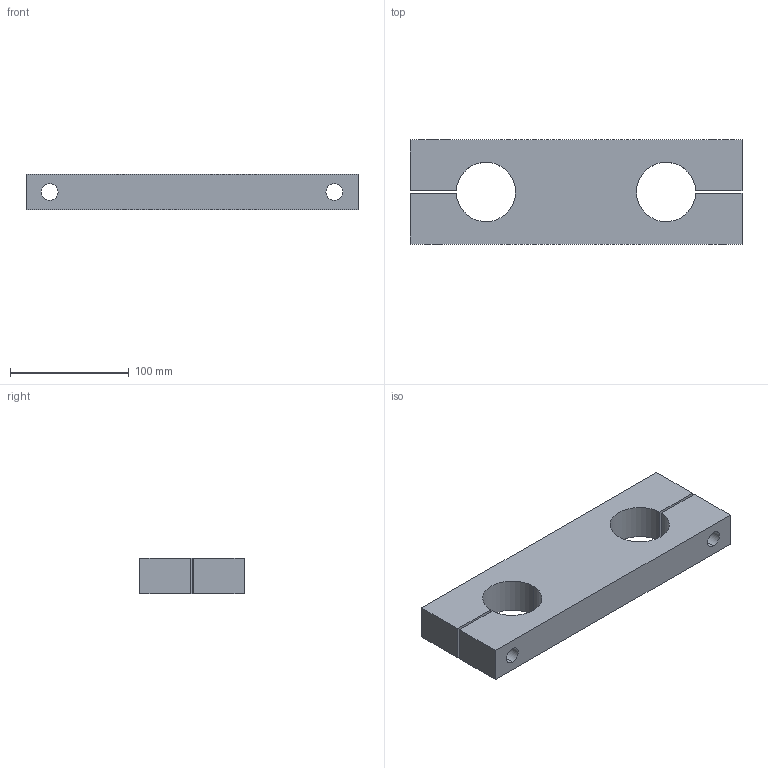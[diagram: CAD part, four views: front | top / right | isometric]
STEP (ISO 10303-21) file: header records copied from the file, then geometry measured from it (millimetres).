
FILE_DESCRIPTION (( 'STEP AP214' ), '1' );
FILE_NAME ('KTB-50.step', '2020-03-04T13:38:53', ( '' ), ( '' ), 'SwSTEP 2.0', 'SolidWorks 2019', '' );
FILE_SCHEMA (( 'AUTOMOTIVE_DESIGN' ));
Length unit declared in the file: millimetre
Products named in the file (1): KTB-50
Bounding box: 280 x 88 x 30 mm (x, y, z)
Volume: 569773 mm3; surface area: 85141.9 mm2
Topology: 1 solids, 1 shells, 41 faces, 101 edges, 65 vertices
Faces by surface type: cylinder 21, plane 16, cone 4
Entity records: 1307 total; most frequent: DIRECTION 227, CARTESIAN_POINT 206, ORIENTED_EDGE 198, EDGE_CURVE 99, AXIS2_PLACEMENT_3D 86, VERTEX_POINT 65, VECTOR 55, LINE 55
